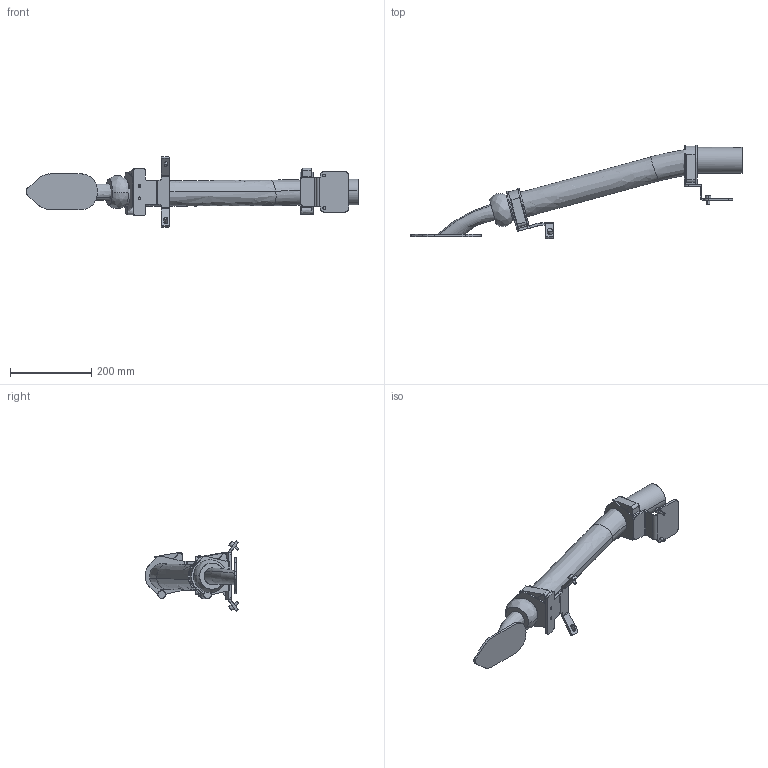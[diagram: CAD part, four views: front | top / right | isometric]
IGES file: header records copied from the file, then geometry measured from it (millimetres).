
Start section: SolidWorks IGES file using analytic representation for surfaces
Global section: file name: C:\Users\seamsto1\Desktop\Lättvikt\IRB6710-MH3_210kg-265_OC_00_SW_J\IRB6710-MH3_210kg-265_OC_00_IGES_J\IRB6710-MH3_210kg-265_OC_00_LINK04_CABLE.IGS; native system: SolidWorks 2020; preprocessor: SolidWorks 2020; author: SEAMSTO1; date: 230510.132055; units: millimetre
Bounding box: 817.5 x 230.88 x 174.65 mm (x, y, z)
Surface area: 260675.7 mm2 (no closed solid volume)
Topology: 0 solids, 0 shells, 281 faces, 3932 edges, 3931 vertices
Faces by surface type: bspline 190, revolution 91
